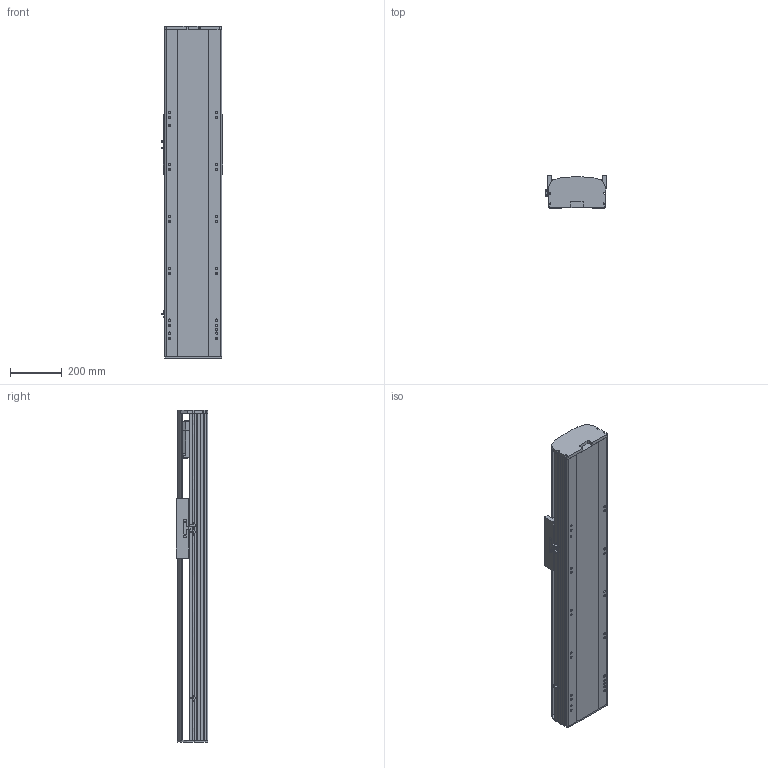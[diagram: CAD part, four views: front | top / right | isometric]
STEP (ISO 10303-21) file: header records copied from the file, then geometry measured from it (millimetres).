
FILE_DESCRIPTION (( 'STEP AP214' ), '1' );
FILE_NAME ('RTH22-XX-650-B-M75B-C4.STEP', '2025-10-24T10:09:13', ( 'Microsoft' ), ( 'Microsoft' ), 'SwSTEP 2.0', 'SolidWorks 2018', '' );
FILE_SCHEMA (( 'AUTOMOTIVE_DESIGN' ));
Length unit declared in the file: millimetre
Products named in the file (9): N_RTH22-B-007B奻裔^RTH22-XX-XX-B-M75B-C4; N_750W萇儂^RTH22-XX-XX-B-M75B-C4; N_RTH22-GY-013外置感应片^RTH22-XX-XX-B-M75B-C4; N_RTH22-B-011B菁釱^RTH22-XX-XX-B-M75B-C4; N_RTH22-E-004-SFS25賑釱^RTH22-XX-XX-B-M75B-C4; N_RTH22-GY-001耜裔^RTH22-XX-XX-B-M75B-C4; N_OMRON EE-SX672 传感器^RTH22-XX-XX-B-M75B-C4; N_RTH22-B008萇儂啣^RTH22-XX-XX-B-M75B-C4; RTH22-XX-650-B-M75B-C4
Assembly tree (10 placements, depth 2):
  RTH22-XX-650-B-M75B-C4
    N_RTH22-B-011B菁釱^RTH22-XX-XX-B-M75B-C4
    N_RTH22-GY-001耜裔^RTH22-XX-XX-B-M75B-C4
    N_750W萇儂^RTH22-XX-XX-B-M75B-C4
    N_RTH22-B008萇儂啣^RTH22-XX-XX-B-M75B-C4
    N_RTH22-B-007B奻裔^RTH22-XX-XX-B-M75B-C4
    N_OMRON EE-SX672 传感器^RTH22-XX-XX-B-M75B-C4  x3
    N_RTH22-GY-013外置感应片^RTH22-XX-XX-B-M75B-C4
    N_RTH22-E-004-SFS25賑釱^RTH22-XX-XX-B-M75B-C4
Bounding box: 238.5 x 122 x 1280 mm (x, y, z)
Volume: 17860775.4 mm3; surface area: 1855354.6 mm2
Topology: 10 solids, 10 shells, 1515 faces, 4150 edges, 2683 vertices
Faces by surface type: plane 752, cylinder 430, bspline 279, cone 54
Entity records: 37433 total; most frequent: CARTESIAN_POINT 11697, ORIENTED_EDGE 5284, DIRECTION 4940, EDGE_CURVE 2642, VERTEX_POINT 1719, AXIS2_PLACEMENT_3D 1654, VECTOR 1632, LINE 1632
